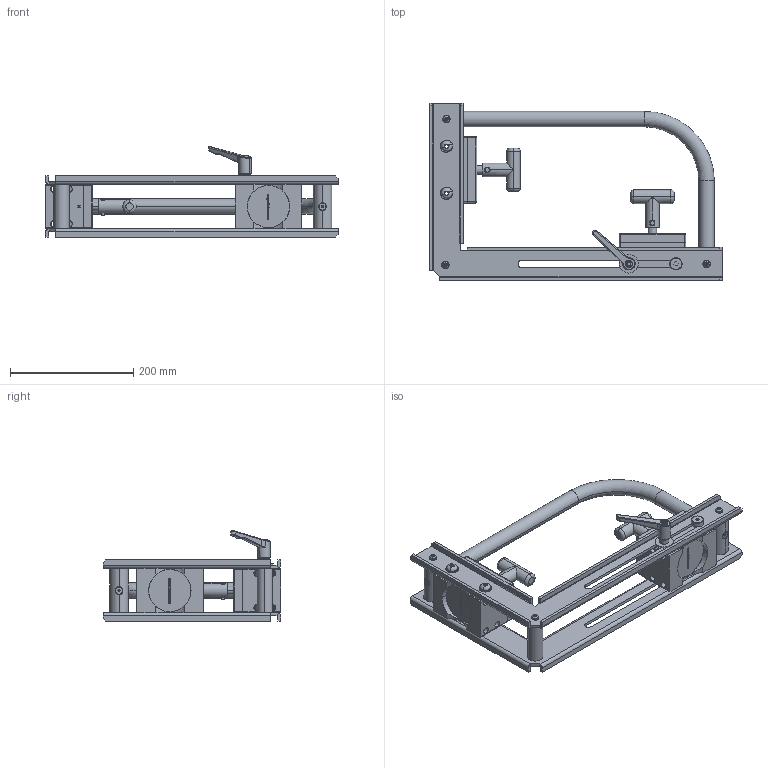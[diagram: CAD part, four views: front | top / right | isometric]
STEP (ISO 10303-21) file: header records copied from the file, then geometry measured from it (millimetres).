
FILE_DESCRIPTION (( 'STEP AP203' ), '1' );
FILE_NAME ('8000503.STEP', '2013-10-02T18:36:03', ( '' ), ( '' ), 'SwSTEP 2.0', 'SolidWorks 2010', '' );
FILE_SCHEMA (( 'CONFIG_CONTROL_DESIGN' ));
Length unit declared in the file: millimetre
Products named in the file (1): 8000503
Bounding box: 474 x 287 x 146.62 mm (x, y, z)
Surface area: 398779.6 mm2 (no closed solid volume)
Topology: 0 solids, 78 shells, 823 faces, 3599 edges, 2735 vertices
Faces by surface type: plane 379, cylinder 195, cone 170, bspline 35, torus 24, sphere 20
Entity records: 42045 total; most frequent: CARTESIAN_POINT 13464, DIRECTION 5788, ORIENTED_EDGE 5097, EDGE_CURVE 3587, VERTEX_POINT 2735, VECTOR 2366, LINE 2366, AXIS2_PLACEMENT_3D 1711
